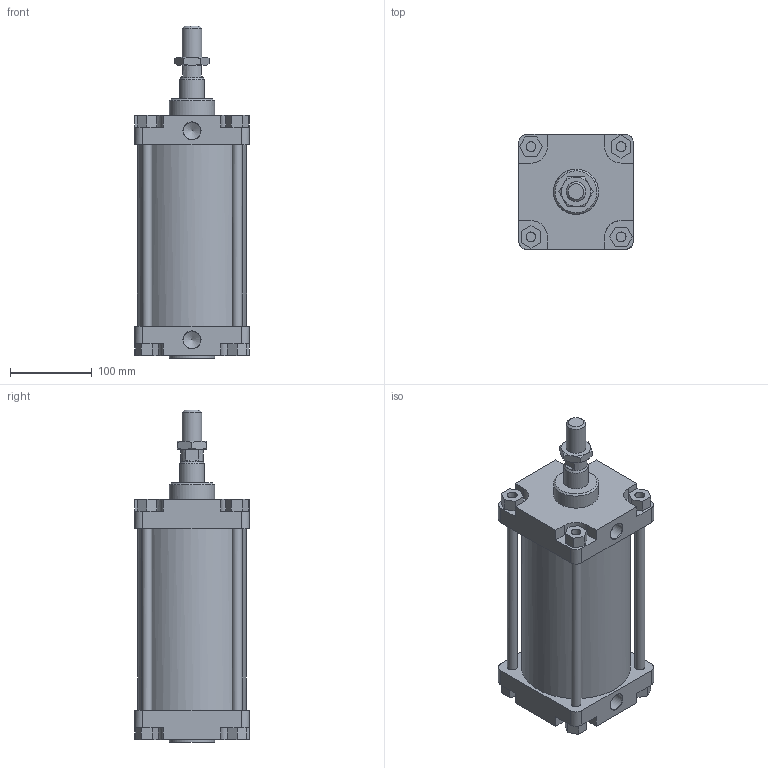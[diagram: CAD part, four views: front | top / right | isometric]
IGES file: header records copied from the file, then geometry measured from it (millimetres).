
Global section: file name: 1304_125_0125_01A; native system: Autodesk Inventor 2014; preprocessor: unknown; author: A. Manieri; date: 20161124.142412; units: millimetre
Bounding box: 140 x 140 x 405 mm (x, y, z)
Volume: 3123290.6 mm3; surface area: 451716.7 mm2
Topology: 9 solids, 9 shells, 175 faces, 440 edges, 295 vertices
Faces by surface type: bspline 175
